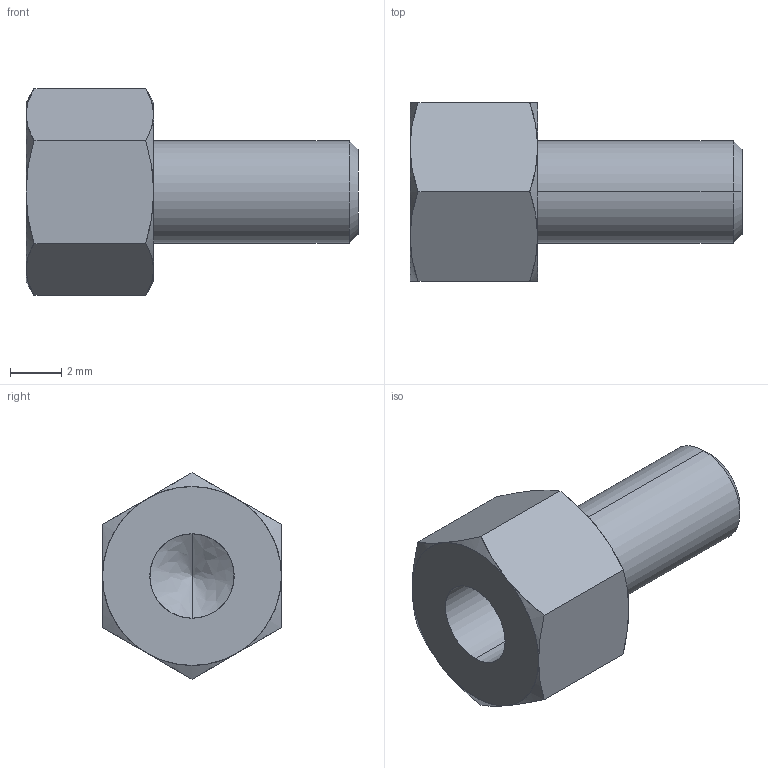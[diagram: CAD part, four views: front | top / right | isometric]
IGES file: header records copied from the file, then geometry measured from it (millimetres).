
Start section: SolidWorks IGES file using analytic representation for surfaces
Global section: file name: C:\Users\render1\Desktop\P0185_IGES\P0185.04-05.igs; native system: SolidWorks 2009; preprocessor: SolidWorks 2009; author: render1; date: 130627.111951; units: millimetre
Bounding box: 13 x 7 x 8.08 mm (x, y, z)
Surface area: 332.4 mm2 (no closed solid volume)
Topology: 0 solids, 0 shells, 29 faces, 320 edges, 318 vertices
Faces by surface type: revolution 20, bspline 9
